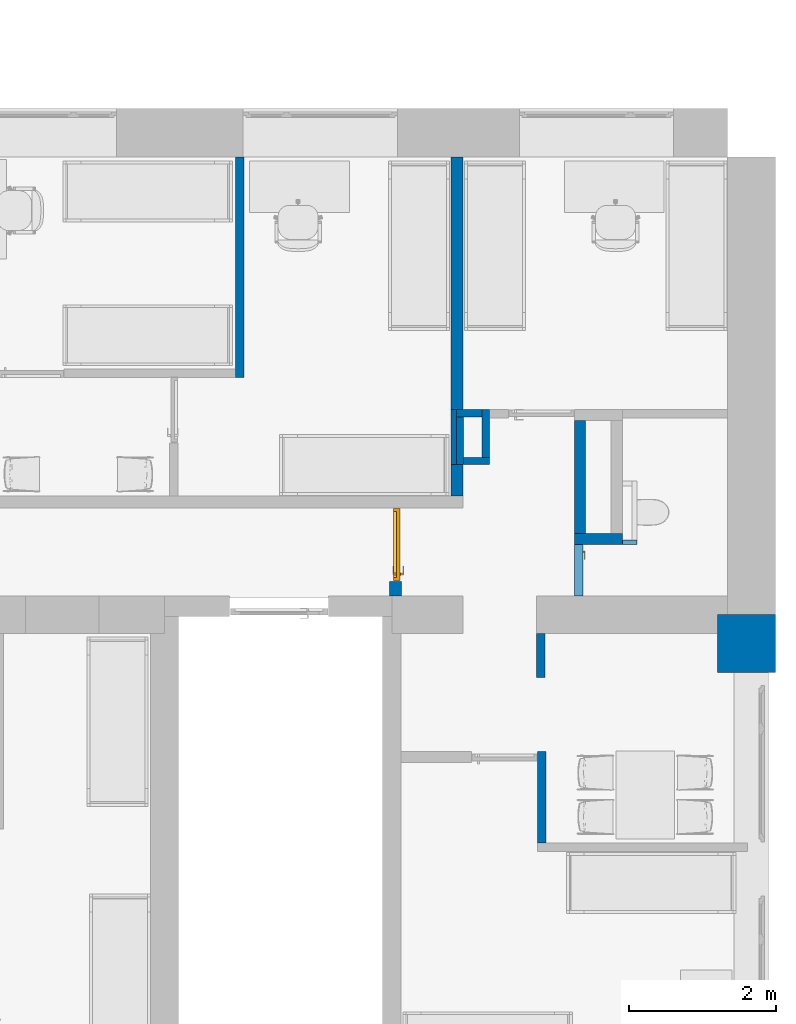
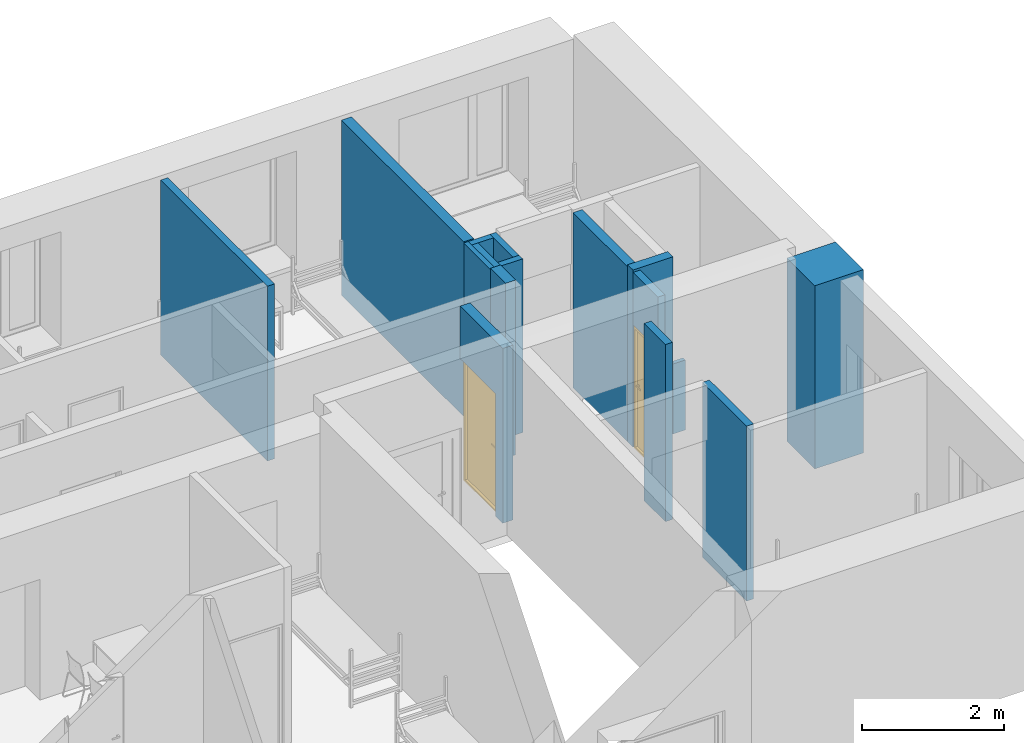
# One storey, part 13 of 46: 16 walls, 2 doors, 6 openings.
"""IFC2X3 building model written with IfcOpenShell, lengths in millimetres."""

from ifc_helpers import new_model, entity, si_unit, converted_unit, derived_unit, direction, frame, frame_2d, origin, place, context, subcontext, project, spatial, polyline, rectangle, extrude, clip, bounded_halfspace, faceted_brep, source, transform, mapped, material, material_list, layer, layer_set, layer_usage, type_object, type_shapes, element, fill, save


model = new_model("IFC2X3")

# Units and contexts
model_context = context("Model", 3, precision=0.01, world=origin(), true_north=direction((6.12303176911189e-17, 1.0)))
body_context = subcontext(model_context, "Body", "Model", "MODEL_VIEW")
ifc_project = project(units=[si_unit("LENGTHUNIT", "METRE", prefix="MILLI"), si_unit("AREAUNIT", "SQUARE_METRE"), si_unit("VOLUMEUNIT", "CUBIC_METRE"), converted_unit("PLANEANGLEUNIT", "DEGREE", entity("IfcRatioMeasure", 0.0174532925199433), si_unit("PLANEANGLEUNIT", "RADIAN"), dimensions=[0, 0, 0, 0, 0, 0, 0]), si_unit("MASSUNIT", "GRAM", prefix="KILO"), derived_unit("MASSDENSITYUNIT", [(si_unit("MASSUNIT", "GRAM", prefix="KILO"), 1), (si_unit("LENGTHUNIT", "METRE"), -3)]), si_unit("TIMEUNIT", "SECOND"), si_unit("FREQUENCYUNIT", "HERTZ"), si_unit("THERMODYNAMICTEMPERATUREUNIT", "DEGREE_CELSIUS"), derived_unit("THERMALTRANSMITTANCEUNIT", [(si_unit("MASSUNIT", "GRAM", prefix="KILO"), 1), (si_unit("THERMODYNAMICTEMPERATUREUNIT", "KELVIN"), -1), (si_unit("TIMEUNIT", "SECOND"), -3)]), derived_unit("VOLUMETRICFLOWRATEUNIT", [(si_unit("LENGTHUNIT", "METRE"), 3), (si_unit("TIMEUNIT", "SECOND"), -1)]), si_unit("ELECTRICCURRENTUNIT", "AMPERE"), si_unit("ELECTRICVOLTAGEUNIT", "VOLT"), si_unit("POWERUNIT", "WATT"), si_unit("FORCEUNIT", "NEWTON", prefix="KILO"), si_unit("ILLUMINANCEUNIT", "LUX"), si_unit("LUMINOUSFLUXUNIT", "LUMEN"), si_unit("LUMINOUSINTENSITYUNIT", "CANDELA"), derived_unit("USERDEFINED", [(si_unit("MASSUNIT", "GRAM", prefix="KILO"), -1), (si_unit("LENGTHUNIT", "METRE"), -2), (si_unit("TIMEUNIT", "SECOND"), 3), (si_unit("LUMINOUSFLUXUNIT", "LUMEN"), 1)]), derived_unit("LINEARVELOCITYUNIT", [(si_unit("LENGTHUNIT", "METRE"), 1), (si_unit("TIMEUNIT", "SECOND"), -1)]), si_unit("PRESSUREUNIT", "PASCAL"), derived_unit("USERDEFINED", [(si_unit("LENGTHUNIT", "METRE"), -2), (si_unit("MASSUNIT", "GRAM", prefix="KILO"), 1), (si_unit("TIMEUNIT", "SECOND"), -2)]), derived_unit("LINEARFORCEUNIT", [(si_unit("MASSUNIT", "GRAM", prefix="KILO"), 1), (si_unit("LENGTHUNIT", "METRE"), 1), (si_unit("TIMEUNIT", "SECOND"), -2), (si_unit("LENGTHUNIT", "METRE"), -1)]), derived_unit("PLANARFORCEUNIT", [(si_unit("MASSUNIT", "GRAM", prefix="KILO"), 1), (si_unit("LENGTHUNIT", "METRE"), 1), (si_unit("TIMEUNIT", "SECOND"), -2), (si_unit("LENGTHUNIT", "METRE"), -2)])], contexts=[model_context])

# Site, building, storey
site_placement = place(None, origin())
site = spatial("IfcSite", under=ifc_project, at=site_placement, Name="Default", CompositionType="ELEMENT")
building_placement = place(site_placement, origin())
building = spatial("IfcBuilding", under=site, at=building_placement, Name="SMA ARH", CompositionType="ELEMENT")
storey_placement = place(building_placement, frame((0.0, 0.0, 9910.0)))
storey = spatial("IfcBuildingStorey", under=building, at=storey_placement, Name="4 Korrus", CompositionType="ELEMENT", Elevation=9909.9999999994)

# Wall, opening
ifc_material_1 = material(Name="EST. Müüritis. Väikeplokk. Kergkruusplokk")
ifc_layer_1 = layer(ifc_material_1, 150.0)
ifc_layer_set_1 = layer_set([ifc_layer_1], Name="Basic Wall:SS-02_ 150mm šahtide vahesein")
ifc_layer_usage_1 = layer_usage(ifc_layer_set_1, "AXIS2", "POSITIVE", -75.0)
wall_type_1 = type_object("IfcWallType", Name="Basic Wall:SS-02_ 150mm šahtide vahesein", PredefinedType="STANDARD", material=ifc_layer_set_1)
wall_1_placement = place(storey_placement, frame((36880.0, 7295.0, 0.0), z_axis=(0.0, 0.0, 1.0), x_axis=(-1.0, 0.0, 0.0)))
wall_1 = element("IfcWallStandardCase", 1, at=wall_1_placement, inside=storey, type_object=wall_type_1, material=ifc_layer_usage_1, Name="Basic Wall:SS-02_ 150mm šahtide vahesein", ObjectType="Basic Wall:SS-02_ 150mm šahtide vahesein", context=body_context, shape_type="SweptSolid", body=[
    extrude(rectangle(XDim=649.999999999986, YDim=150.000000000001, at=frame_2d((324.999999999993, 4.68958205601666e-13), x_axis=(-1.0, 0.0))), origin(), (0.0, 0.0, 1.0), 3041.0500000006),
])
opening_1_placement = place(wall_1_placement, origin())
element("IfcOpeningElement", 2, at=opening_1_placement, cuts=wall_1, Name="Basic Wall:SS-02_ 150mm šahtide vahesein", ObjectType="Opening", context=body_context, shape_type="SweptSolid", body=[
    extrude(rectangle(XDim=2099.99999999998, YDim=116.0, at=frame_2d((0.0, -1.02318153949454e-12), x_axis=(0.0, 1.0))), frame((592.0, 75.0000093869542, 1050.0), z_axis=(0.0, 1.0, 0.0), x_axis=(-1.0, 0.0, 0.0)), (0.0, 0.0, 1.0), 700.0),
])

# Wall, openings
ifc_layer_usage_2 = layer_usage(ifc_layer_set_1, "AXIS2", "POSITIVE", -75.0)
wall_2_placement = place(storey_placement, frame((36305.0, 7370.0, 0.0), z_axis=(0.0, 0.0, 1.0), x_axis=(0.0, 1.0, 0.0)))
wall_2 = element("IfcWallStandardCase", 3, at=wall_2_placement, inside=storey, type_object=wall_type_1, material=ifc_layer_usage_2, Name="Basic Wall:SS-02_ 150mm šahtide vahesein", ObjectType="Basic Wall:SS-02_ 150mm šahtide vahesein", context=body_context, shape_type="Clipping", body=[
    clip(extrude(rectangle(XDim=1539.50139590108, YDim=150.000000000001, at=frame_2d((769.75069795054, 0.0), x_axis=(-1.0, 0.0))), origin(), (0.0, 0.0, 1.0), 3001.0500000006), bounded_halfspace(frame((0.0, -75.0, 3001.0500000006), z_axis=(0.0, 0.0, -1.0), x_axis=(1.0, 0.0, 0.0)), True, frame((0.0, -75.0, 3001.0500000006)), polyline([(0.0, 0.0), (1539.50139590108, 0.0), (1539.50139590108, 75.0), (1539.50139590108, 150.0), (0.0, 150.0), (0.0, 0.0)]))),
])
opening_2_placement = place(wall_2_placement, origin())
element("IfcOpeningElement", 4, at=opening_2_placement, cuts=wall_2, Name="Basic Wall:SS-02_ 150mm šahtide vahesein", ObjectType="Opening", context=body_context, shape_type="SweptSolid", body=[
    extrude(rectangle(XDim=2099.99999999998, YDim=116.0, at=frame_2d((0.0, 1.02318153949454e-12), x_axis=(0.0, 1.0))), frame((1631.50139590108, 75.0, 1050.0), z_axis=(0.0, 1.0, 0.0), x_axis=(1.0, 0.0, 0.0)), (0.0, 0.0, 1.0), 899.999999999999),
])
opening_3_placement = place(wall_2_placement, origin())
element("IfcOpeningElement", 5, at=opening_3_placement, cuts=wall_2, Name="Basic Wall:SS-02_ 150mm šahtide vahesein", ObjectType="Opening", context=body_context, shape_type="SweptSolid", body=[
    extrude(rectangle(XDim=2099.99999999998, YDim=700.0, at=frame_2d((-1.02318153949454e-12, 5.40012479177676e-13), x_axis=(1.0, 0.0))), frame((-500.000009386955, -1449.0, 1050.0), z_axis=(0.0, 1.0, 0.0), x_axis=(0.0, 0.0, 1.0)), (0.0, 0.0, 1.0), 3048.0),
])

# Wall
ifc_material_2 = material(Name="_ol.olev sein")
ifc_layer_2 = layer(ifc_material_2, 790.0)
ifc_layer_set_2 = layer_set([ifc_layer_2], Name="Basic Wall:Generic - 790mm")
ifc_layer_usage_3 = layer_usage(ifc_layer_set_2, "AXIS2", "NEGATIVE", 395.0)
wall_type_2 = type_object("IfcWallType", Name="Basic Wall:Generic - 790mm", PredefinedType="STANDARD", material=ifc_layer_set_2)
wall_3_placement = place(storey_placement, frame((38570.0, 6265.0, 0.0), z_axis=(0.0, 0.0, 1.0), x_axis=(0.0, -1.0, 0.0)))
element("IfcWallStandardCase", 6, at=wall_3_placement, inside=storey, type_object=wall_type_2, material=ifc_layer_usage_3, Name="Basic Wall:Generic - 790mm", ObjectType="Basic Wall:Generic - 790mm", context=body_context, shape_type="SweptSolid", body=[
    extrude(rectangle(XDim=785.00000000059, YDim=790.000000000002, at=frame_2d((392.500000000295, 0.0), x_axis=(-1.0, 0.0))), origin(), (0.0, 0.0, 1.0), 3145.00000000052),
])

# Wall, opening, door
ifc_material_3 = material(Name="EST. Ehitusplaat. Kipsplaat")
ifc_layer_3 = layer(ifc_material_3, 12.5)
ifc_layer_4 = layer(ifc_material_3, 12.5)
ifc_material_4 = material(Name="EST. Soojustus. Mineraalvill. Default")
ifc_layer_5 = layer(ifc_material_4, 50.0)
ifc_layer_6 = layer(ifc_material_3, 12.5)
ifc_layer_7 = layer(ifc_material_4, 50.0)
ifc_layer_8 = layer(ifc_material_3, 12.5)
ifc_layer_9 = layer(ifc_material_3, 12.5)
ifc_layer_set_3 = layer_set([ifc_layer_3, ifc_layer_4, ifc_layer_5, ifc_layer_6, ifc_layer_7, ifc_layer_8, ifc_layer_9], Name="Basic Wall:SS-04_Kips, 50+50 mm metallkarkass 2")
ifc_layer_usage_4 = layer_usage(ifc_layer_set_3, "AXIS2", "NEGATIVE", 81.25)
wall_type_3 = type_object("IfcWallType", Name="Basic Wall:SS-04_Kips, 50+50 mm metallkarkass 2", PredefinedType="STANDARD", material=ifc_layer_set_3)
wall_4_placement = place(storey_placement, frame((33792.5000000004, 7720.0, 0.0), z_axis=(0.0, 0.0, 1.0), x_axis=(0.0, -1.0, 0.0)))
wall_4 = element("IfcWallStandardCase", 7, at=wall_4_placement, inside=storey, type_object=wall_type_3, material=ifc_layer_usage_4, Name="Basic Wall:SS-04_Kips, 50+50 mm metallkarkass 2", ObjectType="Basic Wall:SS-04_Kips, 50+50 mm metallkarkass 2", context=body_context, shape_type="SweptSolid", body=[
    extrude(rectangle(XDim=1200.00000000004, YDim=162.499999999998, at=frame_2d((600.000000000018, 0.0), x_axis=(-1.0, 0.0))), origin(), (0.0, 0.0, 1.0), 3001.0500000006),
])
opening_4_placement = place(wall_4_placement, frame((0.0, -81.2499999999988, 0.0)))
opening_4 = element("IfcOpeningElement", 8, at=opening_4_placement, cuts=wall_4, Name="SMA_D01, 1-poolne:SU-P-04 - 1000x2100 EI-30:1", ObjectType="Opening", context=body_context, shape_type="SweptSolid", body=[
    extrude(rectangle(XDim=2099.99999999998, YDim=1000.0, at=frame_2d((1049.99999999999, 500.0), x_axis=(1.0, 0.0))), frame((0.0, 0.0, 0.0), z_axis=(0.0, 1.0, 0.0), x_axis=(0.0, 0.0, 1.0)), (0.0, 0.0, 1.0), 162.5),
])
ifc_material_5 = material(Name="EST. Metall. Alumiinium. Värvitud. RAL7023 (Concrete grey)")
ifc_material_6 = material(Name="<Unnamed>")
ifc_material_7 = material(Name="EST. Klaas. 3x. Default")
ifc_material_list_1 = material_list([ifc_material_5, ifc_material_5, ifc_material_5, ifc_material_6, ifc_material_7, ifc_material_6, ifc_material_6])
door_style_1 = type_object("IfcDoorStyle", Name="SMA_D01, 1-poolne:SU-P-04 - 1000x2100 EI-30", ConstructionType="NOTDEFINED", OperationType="SINGLE_SWING_LEFT", ParameterTakesPrecedence=False, Sizeable=False, material=ifc_material_list_1)
shared_shape_1 = source(origin(), body_context, "Body", "Brep", [
    faceted_brep([(890.0, 52.5000000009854, 1112.5), (795.0, 52.5000000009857, 1112.5), (795.0, 47.5000000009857, 1112.5), (915.0, 47.5000000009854, 1112.5), (915.0, 90.5000000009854, 1112.5), (890.0, 90.5000000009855, 1112.5), (890.0, 52.5000000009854, 1087.5), (890.0, 90.5000000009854, 1087.5), (915.0, 90.5000000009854, 1087.5), (915.0, 47.5000000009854, 1087.5), (795.0, 47.5000000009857, 1087.5), (795.0, 52.5000000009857, 1087.5)], [[[0, 1, 2, 3, 4, 5]], [[6, 7, 8, 9, 10, 11]], [[5, 7, 6, 0]], [[4, 8, 7, 5]], [[3, 9, 8, 4]], [[2, 10, 9, 3]], [[1, 11, 10, 2]], [[0, 6, 11, 1]]]),
    faceted_brep([(877.500000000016, 90.5000000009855, 1137.5), (927.500000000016, 90.5000000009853, 1137.5), (927.500000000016, 92.5000000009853, 1137.5), (877.500000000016, 92.5000000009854, 1137.5), (877.500000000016, 90.5000000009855, 1017.5), (877.500000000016, 92.5000000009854, 1017.5), (927.500000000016, 92.5000000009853, 1017.5), (927.500000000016, 90.5000000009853, 1017.5)], [[[0, 1, 2, 3]], [[4, 5, 6, 7]], [[3, 5, 4, 0]], [[2, 6, 5, 3]], [[1, 7, 6, 2]], [[0, 4, 7, 1]]]),
    faceted_brep([(890.0, 182.500000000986, 1112.5), (890.0, 144.500000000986, 1112.5), (915.0, 144.500000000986, 1112.5), (915.0, 187.500000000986, 1112.5), (795.0, 187.500000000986, 1112.5), (795.0, 182.500000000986, 1112.5), (890.0, 182.500000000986, 1087.5), (795.0, 182.500000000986, 1087.5), (795.0, 187.500000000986, 1087.5), (915.0, 187.500000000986, 1087.5), (915.0, 144.500000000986, 1087.5), (890.0, 144.500000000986, 1087.5)], [[[0, 1, 2, 3, 4, 5]], [[6, 7, 8, 9, 10, 11]], [[1, 0, 6, 11]], [[2, 1, 11, 10]], [[3, 2, 10, 9]], [[4, 3, 9, 8]], [[5, 4, 8, 7]], [[0, 5, 7, 6]]]),
    faceted_brep([(877.500000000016, 144.500000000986, 1137.5), (877.500000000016, 142.500000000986, 1137.5), (927.500000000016, 142.500000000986, 1137.5), (927.500000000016, 144.500000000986, 1137.5), (877.500000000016, 144.500000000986, 1017.5), (927.500000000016, 144.500000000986, 1017.5), (927.500000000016, 142.500000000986, 1017.5), (877.500000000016, 142.500000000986, 1017.5)], [[[0, 1, 2, 3]], [[4, 5, 6, 7]], [[1, 0, 4, 7]], [[2, 1, 7, 6]], [[3, 2, 6, 5]], [[0, 3, 5, 4]]]),
    faceted_brep([(50.0, 52.5000000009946, 30.0), (50.0, 92.5000000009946, 30.0), (50.0, 92.5000000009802, 20.0), (50.0, 92.5000000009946, 0.0), (50.0, 52.5000000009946, 0.0), (950.0, 52.5000000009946, 30.0), (950.0, 52.5000000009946, 0.0), (950.0, 92.5000000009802, 0.0), (950.0, 92.5000000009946, 20.0), (950.0, 92.5000000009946, 30.0), (35.0, 92.5000000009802, 0.0), (35.0, 142.500000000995, 0.0), (965.0, 142.500000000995, 0.0), (965.0, 92.5000000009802, 0.0), (35.0, 142.500000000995, 20.0), (35.0, 92.5000000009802, 20.0), (965.0, 142.500000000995, 20.0), (965.0, 92.5000000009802, 20.0)], [[[0, 1, 2, 3, 4]], [[5, 6, 7, 8, 9]], [[4, 6, 5, 0]], [[3, 10, 11, 12, 13, 7, 6, 4]], [[9, 8, 2, 1]], [[0, 5, 9, 1]], [[14, 11, 10, 15]], [[16, 17, 13, 12]], [[15, 2, 8, 17, 16, 14]], [[10, 3, 2, 15]], [[14, 16, 12, 11]], [[17, 8, 7, 13]]]),
    faceted_brep([(10.0, 52.5000000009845, 0.0), (10.0, 142.500000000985, 0.0), (35.0, 142.500000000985, 0.0), (35.0, 92.5000000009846, 0.0), (50.0, 92.5000000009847, 0.0), (50.0, 52.5000000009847, 0.0), (50.0, 52.5000000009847, 2050.0), (950.0, 52.5000000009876, 2050.0), (950.0, 52.5000000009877, 0.0), (990.0, 52.5000000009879, 0.0), (990.0, 52.5000000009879, 2090.0), (10.0, 52.5000000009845, 2090.0), (50.0, 92.5000000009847, 2050.0), (35.0, 92.5000000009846, 2065.0), (965.0, 92.5000000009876, 2065.0), (965.0, 92.5000000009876, 0.0), (950.0, 92.5000000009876, 0.0), (950.0, 92.5000000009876, 2050.0), (35.0, 142.500000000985, 2065.0), (10.0, 142.500000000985, 2090.0), (990.0, 142.500000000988, 2090.0), (990.0, 142.500000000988, 0.0), (965.0, 142.500000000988, 0.0), (965.0, 142.500000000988, 2065.0)], [[[0, 1, 2, 3, 4, 5]], [[5, 6, 7, 8, 9, 10, 11, 0]], [[4, 12, 6, 5]], [[3, 13, 14, 15, 16, 17, 12, 4]], [[2, 18, 13, 3]], [[1, 19, 20, 21, 22, 23, 18, 2]], [[0, 11, 19, 1]], [[9, 21, 20, 10]], [[8, 16, 15, 22, 21, 9]], [[7, 17, 16, 8]], [[14, 23, 22, 15]], [[6, 12, 17, 7]], [[13, 18, 23, 14]], [[10, 20, 19, 11]]]),
    faceted_brep([(965.0, 92.5000000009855, 2065.0), (35.0, 92.5000000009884, 2065.0), (35.0, 92.5000000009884, 20.0), (965.0, 92.5000000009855, 20.0), (965.0, 142.500000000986, 2065.0), (965.0, 142.500000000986, 20.0), (35.0, 142.500000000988, 20.0), (35.0, 142.500000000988, 2065.0)], [[[0, 1, 2, 3]], [[4, 5, 6, 7]], [[3, 5, 4, 0]], [[2, 6, 5, 3]], [[1, 7, 6, 2]], [[0, 4, 7, 1]]]),
])
type_shapes(door_style_1, [shared_shape_1])
door_1_placement = place(opening_4_placement, origin())
door_1 = element("IfcDoor", 9, at=door_1_placement, inside=storey, type_object=door_style_1, material=ifc_material_5, Name="SMA_D01, 1-poolne:SU-P-04 - 1000x2100 EI-30", ObjectType="SMA_D01, 1-poolne:SU-P-04 - 1000x2100 EI-30", OverallHeight=2099.99999999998, OverallWidth=999.999999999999, context=body_context, shape_type="MappedRepresentation", body=[
    mapped(shared_shape_1, transform((0.0, 0.0, 0.0), scale=1.0)),
])
fill(opening_4, door_1)

# Walls
ifc_layer_usage_5 = layer_usage(ifc_layer_set_3, "AXIS2", "NEGATIVE", 81.25)
wall_5_placement = place(storey_placement, frame((34625.5000000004, 12500.0, 0.0), z_axis=(0.0, 0.0, 1.0), x_axis=(0.0, -1.0, 0.0)))
element("IfcWallStandardCase", 10, at=wall_5_placement, inside=storey, type_object=wall_type_3, material=ifc_layer_usage_5, Name="Basic Wall:SS-04_Kips, 50+50 mm metallkarkass 2", ObjectType="Basic Wall:SS-04_Kips, 50+50 mm metallkarkass 2", context=body_context, shape_type="Clipping", body=[
    clip(extrude(rectangle(XDim=3440.49859471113, YDim=162.499999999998, at=frame_2d((1720.24929735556, 1.70530256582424e-13), x_axis=(-1.0, 0.0))), origin(), (0.0, 0.0, 1.0), 3001.0500000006), bounded_halfspace(frame((0.0, -81.2500000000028, 3001.0500000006), z_axis=(0.0, 0.0, -1.0), x_axis=(-1.0, 0.0, 0.0)), True, frame((0.0, -81.2500000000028, 3001.0500000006)), polyline([(0.0, 0.0), (3440.49859471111, 0.0), (3440.49859471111, 162.500000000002), (0.0, 162.500000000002), (0.0, 0.0)]))),
])
ifc_layer_usage_6 = layer_usage(ifc_layer_set_3, "AXIS2", "NEGATIVE", 81.25)
wall_6_placement = place(storey_placement, frame((34625.5000000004, 8309.50140528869, 0.0), z_axis=(0.0, 0.0, 1.0), x_axis=(0.0, -1.0, 0.0)))
element("IfcWallStandardCase", 11, at=wall_6_placement, inside=storey, type_object=wall_type_3, material=ifc_layer_usage_6, Name="Basic Wall:SS-04_Kips, 50+50 mm metallkarkass 2", ObjectType="Basic Wall:SS-04_Kips, 50+50 mm metallkarkass 2", context=body_context, shape_type="Clipping", body=[
    clip(extrude(rectangle(XDim=427.001405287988, YDim=162.499999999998, at=frame_2d((213.500702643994, 0.0), x_axis=(-1.0, 0.0))), origin(), (0.0, 0.0, 1.0), 3001.0500000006), bounded_halfspace(frame((0.0, -81.2500000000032, 3001.0500000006), z_axis=(0.0, 0.0, -1.0), x_axis=(-1.0, 0.0, 0.0)), True, frame((0.0, -81.2500000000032, 3001.0500000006)), polyline([(0.0, 0.0), (427.001405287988, 0.0), (427.001405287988, 162.500000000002), (0.0, 162.500000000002), (0.0, 0.0)]))),
])
ifc_layer_10 = layer(ifc_material_3, 12.5)
ifc_layer_11 = layer(ifc_material_3, 12.5)
ifc_layer_12 = layer(ifc_material_4, 66.0)
ifc_layer_13 = layer(ifc_material_3, 12.5)
ifc_layer_14 = layer(ifc_material_3, 12.5)
ifc_layer_set_4 = layer_set([ifc_layer_10, ifc_layer_11, ifc_layer_12, ifc_layer_13, ifc_layer_14], Name="Basic Wall:SS-05_Kips, 66mm metallkarkass")
ifc_layer_usage_7 = layer_usage(ifc_layer_set_4, "AXIS2", "NEGATIVE", 58.0)
wall_type_4 = type_object("IfcWallType", Name="Basic Wall:SS-05_Kips, 66mm metallkarkass", PredefinedType="STANDARD", material=ifc_layer_set_4)
wall_7_placement = place(storey_placement, frame((31667.5000000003, 12500.0, 0.0), z_axis=(0.0, 0.0, 1.0), x_axis=(0.0, -1.0, 0.0)))
element("IfcWallStandardCase", 12, at=wall_7_placement, inside=storey, type_object=wall_type_4, material=ifc_layer_usage_7, Name="Basic Wall:SS-05_Kips, 66mm metallkarkass", ObjectType="Basic Wall:SS-05_Kips, 66mm metallkarkass", context=body_context, shape_type="SweptSolid", body=[
    extrude(rectangle(XDim=3005.49999999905, YDim=116.0, at=frame_2d((1502.74999999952, -1.27897692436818e-13), x_axis=(-1.0, 0.0))), origin(), (0.0, 0.0, 1.0), 3001.0500000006),
])

# Wall, opening
ifc_layer_usage_8 = layer_usage(ifc_layer_set_4, "AXIS2", "NEGATIVE", 58.0)
wall_8_placement = place(storey_placement, frame((35783.5000000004, 3155.50000000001, 0.0), z_axis=(0.0, 0.0, 1.0), x_axis=(0.0, 1.0, 0.0)))
wall_8 = element("IfcWallStandardCase", 13, at=wall_8_placement, inside=storey, type_object=wall_type_4, material=ifc_layer_usage_8, Name="Basic Wall:SS-05_Kips, 66mm metallkarkass", ObjectType="Basic Wall:SS-05_Kips, 66mm metallkarkass", context=body_context, shape_type="Clipping", body=[
    clip(extrude(rectangle(XDim=1242.99999999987, YDim=116.0, at=frame_2d((621.499999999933, 0.0), x_axis=(-1.0, 0.0))), origin(), (0.0, 0.0, 1.0), 3001.0500000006), bounded_halfspace(frame((0.0, -58.0, 3001.0500000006), z_axis=(0.0, 0.0, -1.0), x_axis=(1.0, 0.0, 0.0)), True, frame((0.0, -58.0, 3001.0500000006)), polyline([(0.0, 0.0), (1243.0, 0.0), (1243.0, 116.0), (0.0, 116.0), (0.0, 0.0)]))),
])
opening_5_placement = place(wall_8_placement, origin())
element("IfcOpeningElement", 14, at=opening_5_placement, cuts=wall_8, Name="Basic Wall:SS-05_Kips, 66mm metallkarkass", ObjectType="Opening", context=body_context, shape_type="SweptSolid", body=[
    extrude(rectangle(XDim=2099.99999999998, YDim=145.0, at=frame_2d((2.70006239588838e-13, 1.02318153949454e-12), x_axis=(0.0, 1.0))), frame((1170.49999999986, 58.0, 1050.0), z_axis=(0.0, 1.0, 0.0), x_axis=(1.0, 0.0, 0.0)), (0.0, 0.0, 1.0), 900.000000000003),
])

# Wall
ifc_layer_15 = layer(ifc_material_3, 12.5)
ifc_layer_16 = layer(ifc_material_3, 12.5)
ifc_material_8 = material(Name="EST. Õhkvahe. Roov. Kipsplaadi alusroov. Vertikaalne")
ifc_layer_17 = layer(ifc_material_8, 66.0)
ifc_layer_18 = layer(ifc_material_3, 12.5)
ifc_layer_19 = layer(ifc_material_3, 12.5)
ifc_layer_set_5 = layer_set([ifc_layer_15, ifc_layer_16, ifc_layer_17, ifc_layer_18, ifc_layer_19], Name="Basic Wall:SS-03_Kips, 66mm metallkarkass")
ifc_layer_usage_9 = layer_usage(ifc_layer_set_5, "AXIS2", "NEGATIVE", 58.0)
wall_type_5 = type_object("IfcWallType", Name="Basic Wall:SS-03_Kips, 66mm metallkarkass", PredefinedType="STANDARD", material=ifc_layer_set_5)
wall_9_placement = place(storey_placement, frame((35768.0, 6010.0, 0.0), z_axis=(0.0, 0.0, 1.0), x_axis=(0.0, -1.0, 0.0)))
element("IfcWallStandardCase", 15, at=wall_9_placement, inside=storey, type_object=wall_type_5, material=ifc_layer_usage_9, Name="Basic Wall:SS-03_Kips, 66mm metallkarkass", ObjectType="Basic Wall:SS-03_Kips, 66mm metallkarkass", context=body_context, shape_type="SweptSolid", body=[
    extrude(rectangle(XDim=599.999999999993, YDim=116.0, at=frame_2d((299.999999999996, 0.0), x_axis=(-1.0, 0.0))), origin(), (0.0, 0.0, 1.0), 3041.0500000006),
])

# Wall, opening, door
ifc_layer_usage_10 = layer_usage(ifc_layer_set_5, "AXIS2", "NEGATIVE", 58.0)
wall_10_placement = place(storey_placement, frame((36288.0, 7220.0, 2100.0), z_axis=(0.0, 0.0, 1.0), x_axis=(0.0, -1.0, 0.0)))
wall_10 = element("IfcWallStandardCase", 16, at=wall_10_placement, inside=storey, type_object=wall_type_5, material=ifc_layer_usage_10, Name="Basic Wall:SS-03_Kips, 66mm metallkarkass", ObjectType="Basic Wall:SS-03_Kips, 66mm metallkarkass", context=body_context, shape_type="SweptSolid", body=[
    extrude(rectangle(XDim=700.000009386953, YDim=116.0, at=frame_2d((350.000004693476, 0.0), x_axis=(-1.0, 0.0))), origin(), (0.0, 0.0, 1.0), 901.050000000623),
])
opening_6_placement = place(wall_10_placement, frame((0.0, -58.0, -2100.0)))
opening_6 = element("IfcOpeningElement", 17, at=opening_6_placement, cuts=wall_10, Name="SMA_D01, 1-poolne:SU-P-08 - 700x2100 DUŠŠ:1", ObjectType="Opening", context=body_context, shape_type="SweptSolid", body=[
    extrude(rectangle(XDim=2099.99999999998, YDim=700.0, at=frame_2d((1049.99999999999, 350.0), x_axis=(1.0, 0.0))), frame((0.0, 0.0, 0.0), z_axis=(0.0, 1.0, 0.0), x_axis=(0.0, 0.0, 1.0)), (0.0, 0.0, 1.0), 116.0),
])
ifc_material_list_2 = material_list([ifc_material_5, ifc_material_7, ifc_material_6, ifc_material_5, ifc_material_6, ifc_material_6, ifc_material_5])
door_style_2 = type_object("IfcDoorStyle", Name="SMA_D01, 1-poolne:SU-P-08 - 700x2100 DUŠŠ", ConstructionType="NOTDEFINED", OperationType="NOTDEFINED", ParameterTakesPrecedence=False, Sizeable=False, material=ifc_material_list_2)
shared_shape_2 = source(origin(), body_context, "Body", "Brep", [
    faceted_brep([(110.0, 6.0, 1112.5), (110.0, 44.0, 1112.5), (85.0, 44.0, 1112.5), (85.0, 1.0, 1112.5), (205.0, 1.0, 1112.5), (205.0, 6.0, 1112.5), (110.0, 6.0, 1087.5), (205.0, 6.0, 1087.5), (205.0, 1.0, 1087.5), (85.0, 1.0, 1087.5), (85.0, 44.0, 1087.5), (110.0, 44.0, 1087.5)], [[[0, 1, 2, 3, 4, 5]], [[6, 7, 8, 9, 10, 11]], [[1, 0, 6, 11]], [[2, 1, 11, 10]], [[3, 2, 10, 9]], [[4, 3, 9, 8]], [[5, 4, 8, 7]], [[0, 5, 7, 6]]]),
    faceted_brep([(122.5, 44.0, 1137.5), (122.5, 46.0, 1137.5), (72.4999999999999, 46.0, 1137.5), (72.4999999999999, 44.0, 1137.5), (122.5, 44.0, 1017.5), (72.4999999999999, 44.0, 1017.5), (72.4999999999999, 46.0, 1017.5), (122.5, 46.0, 1017.5)], [[[0, 1, 2, 3]], [[4, 5, 6, 7]], [[1, 0, 4, 7]], [[2, 1, 7, 6]], [[3, 2, 6, 5]], [[0, 3, 5, 4]]]),
    faceted_brep([(110.0, 136.0, 1112.5), (205.0, 136.0, 1112.5), (205.0, 141.0, 1112.5), (85.0, 141.0, 1112.5), (85.0, 98.0, 1112.5), (110.0, 98.0, 1112.5), (110.0, 136.0, 1087.5), (110.0, 98.0, 1087.5), (85.0, 98.0, 1087.5), (85.0, 141.0, 1087.5), (205.0, 141.0, 1087.5), (205.0, 136.0, 1087.5)], [[[0, 1, 2, 3, 4, 5]], [[6, 7, 8, 9, 10, 11]], [[5, 7, 6, 0]], [[4, 8, 7, 5]], [[3, 9, 8, 4]], [[2, 10, 9, 3]], [[1, 11, 10, 2]], [[0, 6, 11, 1]]]),
    faceted_brep([(122.5, 98.0, 1137.5), (72.4999999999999, 98.0, 1137.5), (72.4999999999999, 96.0, 1137.5), (122.5, 96.0, 1137.5), (122.5, 98.0, 1017.5), (122.5, 96.0, 1017.5), (72.4999999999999, 96.0, 1017.5), (72.4999999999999, 98.0, 1017.5)], [[[0, 1, 2, 3]], [[4, 5, 6, 7]], [[3, 5, 4, 0]], [[2, 6, 5, 3]], [[1, 7, 6, 2]], [[0, 4, 7, 1]]]),
    faceted_brep([(650.0, 6.0, 30.0), (650.0, 6.0, 0.0), (650.0, 46.0, 0.0), (650.0, 46.0, 20.0), (650.0, 46.0, 30.0), (50.0, 6.0, 30.0), (50.0, 46.0, 30.0), (50.0, 46.0, 20.0), (50.0, 46.0, 0.0), (50.0, 6.0, 0.0), (35.0, 46.0, 0.0), (35.0, 96.0, 0.0), (665.0, 96.0, 0.0), (665.0, 46.0, 0.0), (665.0, 96.0, 20.0), (665.0, 46.0, 20.0), (35.0, 96.0, 20.0), (35.0, 46.0, 20.0)], [[[0, 1, 2, 3, 4]], [[5, 6, 7, 8, 9]], [[1, 0, 5, 9]], [[2, 1, 9, 8, 10, 11, 12, 13]], [[6, 4, 3, 7]], [[0, 4, 6, 5]], [[14, 15, 13, 12]], [[16, 11, 10, 17]], [[15, 14, 16, 17, 7, 3]], [[13, 15, 3, 2]], [[14, 12, 11, 16]], [[17, 10, 8, 7]]]),
    faceted_brep([(690.0, 6.0, 0.0), (650.0, 6.0, 0.0), (650.0, 46.0, 0.0), (665.0, 46.0, 0.0), (665.0, 96.0, 0.0), (690.0, 96.0, 0.0), (690.0, 6.0, 2090.0), (10.0, 6.0, 2090.0), (10.0, 6.0, 0.0), (50.0, 6.0, 0.0), (50.0, 6.0, 2050.0), (650.0, 6.0, 2050.0), (650.0, 46.0, 2050.0), (50.0, 46.0, 2050.0), (50.0, 46.0, 0.0), (35.0, 46.0, 0.0), (35.0, 46.0, 2065.0), (665.0, 46.0, 2065.0), (665.0, 96.0, 2065.0), (35.0, 96.0, 2065.0), (35.0, 96.0, 0.0), (10.0, 96.0, 0.0), (10.0, 96.0, 2090.0), (690.0, 96.0, 2090.0)], [[[0, 1, 2, 3, 4, 5]], [[1, 0, 6, 7, 8, 9, 10, 11]], [[2, 1, 11, 12]], [[3, 2, 12, 13, 14, 15, 16, 17]], [[4, 3, 17, 18]], [[5, 4, 18, 19, 20, 21, 22, 23]], [[0, 5, 23, 6]], [[8, 7, 22, 21]], [[9, 8, 21, 20, 15, 14]], [[10, 9, 14, 13]], [[16, 15, 20, 19]], [[11, 10, 13, 12]], [[17, 16, 19, 18]], [[7, 6, 23, 22]]]),
    faceted_brep([(35.0, 46.0, 2065.0), (35.0, 46.0, 20.0), (665.0, 46.0, 20.0), (665.0, 46.0, 2065.0), (35.0, 96.0, 2065.0), (665.0, 96.0, 2065.0), (665.0, 96.0, 20.0), (35.0, 96.0, 20.0)], [[[0, 1, 2, 3]], [[4, 5, 6, 7]], [[1, 0, 4, 7]], [[2, 1, 7, 6]], [[3, 2, 6, 5]], [[0, 3, 5, 4]]]),
])
type_shapes(door_style_2, [shared_shape_2])
door_2_placement = place(opening_6_placement, origin())
door_2 = element("IfcDoor", 18, at=door_2_placement, inside=storey, type_object=door_style_2, material=ifc_material_5, Name="SMA_D01, 1-poolne:SU-P-08 - 700x2100 DUŠŠ", ObjectType="SMA_D01, 1-poolne:SU-P-08 - 700x2100 DUŠŠ", OverallHeight=2099.99999999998, OverallWidth=700.0, context=body_context, shape_type="MappedRepresentation", body=[
    mapped(shared_shape_2, transform((0.0, 0.0, 0.0), scale=1.0)),
])
fill(opening_6, door_2)

# Walls
ifc_material_9 = material(Name="EST. Põrand. Plaatkate")
ifc_layer_20 = layer(ifc_material_9, 10.0)
ifc_layer_21 = layer(ifc_material_3, 12.5)
ifc_layer_22 = layer(ifc_material_8, 42.0)
ifc_layer_set_6 = layer_set([ifc_layer_20, ifc_layer_21, ifc_layer_22], Name="Basic Wall:SS-04 - loputuskast")
ifc_layer_usage_11 = layer_usage(ifc_layer_set_6, "AXIS2", "NEGATIVE", 32.25)
wall_type_6 = type_object("IfcWallType", Name="Basic Wall:SS-04 - loputuskast", PredefinedType="STANDARD", material=ifc_layer_set_6)
wall_11_placement = place(storey_placement, frame((37080.0, 7252.25000938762, 0.0), z_axis=(0.0, 0.0, 1.0), x_axis=(-1.0, 0.0, 0.0)))
element("IfcWallStandardCase", 19, at=wall_11_placement, inside=storey, type_object=wall_type_6, material=ifc_layer_usage_11, Name="Basic Wall:SS-04 - loputuskast", ObjectType="Basic Wall:SS-04 - loputuskast", context=body_context, shape_type="SweptSolid", body=[
    extrude(rectangle(XDim=199.999999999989, YDim=64.5000000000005, at=frame_2d((99.9999999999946, -4.36983782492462e-13), x_axis=(-1.0, 0.0))), origin(), (0.0, 0.0, 1.0), 1200.0),
])
ifc_layer_23 = layer(ifc_material_1, 100.0)
ifc_layer_set_7 = layer_set([ifc_layer_23], Name="Basic Wall:SS-02_ 100mm šahtide vahesein 2")
ifc_layer_usage_12 = layer_usage(ifc_layer_set_7, "AXIS2", "NEGATIVE", 50.0)
wall_type_7 = type_object("IfcWallType", Name="Basic Wall:SS-02_ 100mm šahtide vahesein 2", PredefinedType="STANDARD", material=ifc_layer_set_7)
wall_12_placement = place(storey_placement, frame((34619.2500000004, 9009.5014052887, 0.0)))
element("IfcWallStandardCase", 20, at=wall_12_placement, inside=storey, type_object=wall_type_7, material=ifc_layer_usage_12, Name="Basic Wall:SS-02_ 100mm šahtide vahesein 2", ObjectType="Basic Wall:SS-02_ 100mm šahtide vahesein 2", context=body_context, shape_type="SweptSolid", body=[
    extrude(rectangle(XDim=350.000000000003, YDim=99.9999999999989, at=frame_2d((175.000000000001, 6.3948846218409e-14), x_axis=(-1.0, 0.0))), origin(), (0.0, 0.0, 1.0), 2980.0000000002),
])
ifc_layer_usage_13 = layer_usage(ifc_layer_set_7, "AXIS2", "NEGATIVE", 50.0)
wall_13_placement = place(storey_placement, frame((34669.2500000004, 8959.5014052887, 0.0), z_axis=(0.0, 0.0, 1.0), x_axis=(0.0, -1.0, 0.0)))
element("IfcWallStandardCase", 21, at=wall_13_placement, inside=storey, type_object=wall_type_7, material=ifc_layer_usage_13, Name="Basic Wall:SS-02_ 100mm šahtide vahesein 2", ObjectType="Basic Wall:SS-02_ 100mm šahtide vahesein 2", context=body_context, shape_type="SweptSolid", body=[
    extrude(rectangle(XDim=650.00000000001, YDim=100.000000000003, at=frame_2d((325.000000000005, 0.0), x_axis=(-1.0, 0.0))), origin(), (0.0, 0.0, 1.0), 2980.0000000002),
])
ifc_layer_usage_14 = layer_usage(ifc_layer_set_7, "AXIS2", "NEGATIVE", 50.0)
wall_14_placement = place(storey_placement, frame((34719.2500000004, 8359.50140528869, 0.0)))
element("IfcWallStandardCase", 22, at=wall_14_placement, inside=storey, type_object=wall_type_7, material=ifc_layer_usage_14, Name="Basic Wall:SS-02_ 100mm šahtide vahesein 2", ObjectType="Basic Wall:SS-02_ 100mm šahtide vahesein 2", context=body_context, shape_type="SweptSolid", body=[
    extrude(rectangle(XDim=350.000000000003, YDim=100.000000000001, at=frame_2d((175.000000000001, 6.3948846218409e-14), x_axis=(-1.0, 0.0))), origin(), (0.0, 0.0, 1.0), 2980.0000000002),
])
ifc_layer_usage_15 = layer_usage(ifc_layer_set_7, "AXIS2", "POSITIVE", -50.0)
wall_15_placement = place(storey_placement, frame((35019.2500000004, 9059.5014052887, 0.0), z_axis=(0.0, 0.0, 1.0), x_axis=(0.0, -1.0, 0.0)))
element("IfcWallStandardCase", 23, at=wall_15_placement, inside=storey, type_object=wall_type_7, material=ifc_layer_usage_15, Name="Basic Wall:SS-02_ 100mm šahtide vahesein 2", ObjectType="Basic Wall:SS-02_ 100mm šahtide vahesein 2", context=body_context, shape_type="SweptSolid", body=[
    extrude(rectangle(XDim=650.000000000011, YDim=100.000000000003, at=frame_2d((325.000000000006, 0.0), x_axis=(-1.0, 0.0))), origin(), (0.0, 0.0, 1.0), 2980.0000000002),
])
ifc_layer_24 = layer(ifc_material_8, 50.0)
ifc_layer_25 = layer(ifc_material_3, 12.5)
ifc_layer_26 = layer(ifc_material_3, 12.5)
ifc_layer_set_8 = layer_set([ifc_layer_24, ifc_layer_25, ifc_layer_26], Name="Basic Wall:SS-05_Kips, 50mm metallkarkass 2")
ifc_layer_usage_16 = layer_usage(ifc_layer_set_8, "AXIS2", "NEGATIVE", 37.5)
wall_type_8 = type_object("IfcWallType", Name="Basic Wall:SS-05_Kips, 50mm metallkarkass 2", PredefinedType="STANDARD", material=ifc_layer_set_8)
wall_16_placement = place(storey_placement, frame((34581.7500000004, 9059.5014052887, 0.0), z_axis=(0.0, 0.0, 1.0), x_axis=(0.0, -1.0, 0.0)))
element("IfcWallStandardCase", 24, at=wall_16_placement, inside=storey, type_object=wall_type_8, material=ifc_layer_usage_16, Name="Basic Wall:SS-05_Kips, 50mm metallkarkass 2", ObjectType="Basic Wall:SS-05_Kips, 50mm metallkarkass 2", context=body_context, shape_type="SweptSolid", body=[
    extrude(rectangle(XDim=750.0, YDim=75.0000000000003, at=frame_2d((375.0, 0.0), x_axis=(-1.0, 0.0))), origin(), (0.0, 0.0, 1.0), 2980.0000000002),
])

save(model, "model.ifc")
